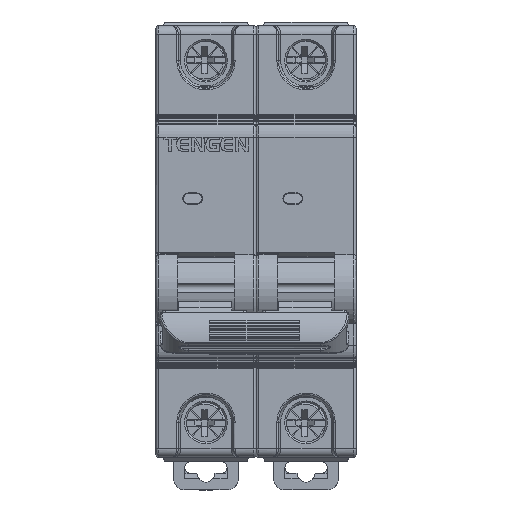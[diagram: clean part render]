
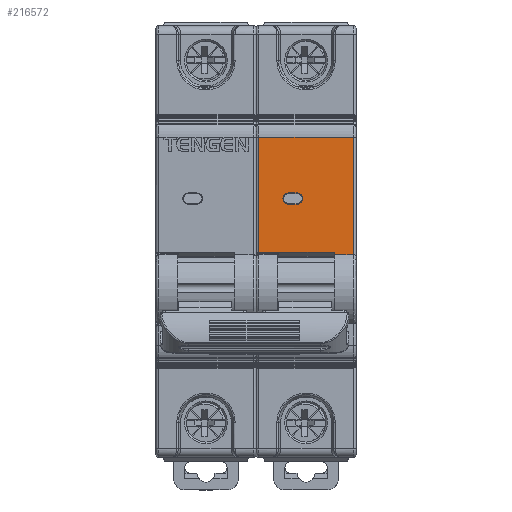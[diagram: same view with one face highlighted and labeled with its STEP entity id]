
A CAD part, top view. The second image highlights one B-rep face of the part: STEP entity #216572.
In plain terms, the highlighted planar face has unit normal (0, 0, 1) as drawn and (0, 1, 0) by its records, which use the part's own axes.
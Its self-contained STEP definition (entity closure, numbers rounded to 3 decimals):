
#2109 = CARTESIAN_POINT ( 'NONE',  ( 7.6, 14., 25.1 ) ) ;
#3216 = ORIENTED_EDGE ( 'NONE', *, *, #134150, .T. ) ;
#5697 = CIRCLE ( 'NONE', #201535, 1. ) ;
#5998 = DIRECTION ( 'NONE',  ( 0., 0., -1. ) ) ;
#6325 = CARTESIAN_POINT ( 'NONE',  ( -2.393, 14., 31.75 ) ) ;
#7253 = ORIENTED_EDGE ( 'NONE', *, *, #91258, .F. ) ;
#9603 = DIRECTION ( 'NONE',  ( 0., -1., 0. ) ) ;
#9660 = CARTESIAN_POINT ( 'NONE',  ( -1.974, 14., 21.8 ) ) ;
#11292 = VECTOR ( 'NONE', #16499, 1000. ) ;
#11916 = EDGE_LOOP ( 'NONE', ( #151654, #179648, #40804, #201691, #125794, #7253, #111905 ) ) ;
#11970 = DIRECTION ( 'NONE',  ( 0., 0., 1. ) ) ;
#13400 = VERTEX_POINT ( 'NONE', #9660 ) ;
#14199 = VERTEX_POINT ( 'NONE', #156348 ) ;
#15335 = VERTEX_POINT ( 'NONE', #36490 ) ;
#15580 = VERTEX_POINT ( 'NONE', #131794 ) ;
#16499 = DIRECTION ( 'NONE',  ( 1., 0., 0. ) ) ;
#17523 = DIRECTION ( 'NONE',  ( 0., 1., 0. ) ) ;
#18248 = ORIENTED_EDGE ( 'NONE', *, *, #180495, .T. ) ;
#20565 = EDGE_CURVE ( 'NONE', #22291, #15335, #173309, .T. ) ;
#21064 = CARTESIAN_POINT ( 'NONE',  ( 8.6, 14., 25.1 ) ) ;
#21195 = VERTEX_POINT ( 'NONE', #190199 ) ;
#21294 = DIRECTION ( 'NONE',  ( 0., 0., -1. ) ) ;
#22151 = EDGE_CURVE ( 'NONE', #217487, #48696, #125296, .T. ) ;
#22291 = VERTEX_POINT ( 'NONE', #37809 ) ;
#22553 = DIRECTION ( 'NONE',  ( 1., 0., 0. ) ) ;
#23543 = DIRECTION ( 'NONE',  ( 0., 0., 1. ) ) ;
#25448 = LINE ( 'NONE', #129979, #159810 ) ;
#35970 = AXIS2_PLACEMENT_3D ( 'NONE', #2109, #74801, #22553 ) ;
#36490 = CARTESIAN_POINT ( 'NONE',  ( 18.5, 14., 35.1 ) ) ;
#37287 = EDGE_CURVE ( 'NONE', #206288, #217487, #55682, .T. ) ;
#37809 = CARTESIAN_POINT ( 'NONE',  ( 18.5, 14., 18.3 ) ) ;
#40804 = ORIENTED_EDGE ( 'NONE', *, *, #100485, .T. ) ;
#42572 = DIRECTION ( 'NONE',  ( -1., 0., 0. ) ) ;
#45894 = CARTESIAN_POINT ( 'NONE',  ( 7.6, 14., 23.6 ) ) ;
#46351 = DIRECTION ( 'NONE',  ( 1., 0., 0. ) ) ;
#48696 = VERTEX_POINT ( 'NONE', #176336 ) ;
#55682 = CIRCLE ( 'NONE', #88305, 1. ) ;
#58732 = CARTESIAN_POINT ( 'NONE',  ( -1.974, 14., 21.8 ) ) ;
#61755 = DIRECTION ( 'NONE',  ( -1., 0., 0. ) ) ;
#66408 = FACE_OUTER_BOUND ( 'NONE', #11916, .T. ) ;
#68279 = EDGE_CURVE ( 'NONE', #14199, #22291, #153940, .T. ) ;
#68907 = CARTESIAN_POINT ( 'NONE',  ( 7.6, 14., 25.1 ) ) ;
#74801 = DIRECTION ( 'NONE',  ( 0., -1., 0. ) ) ;
#77693 = LINE ( 'NONE', #146955, #79660 ) ;
#79660 = VECTOR ( 'NONE', #93645, 1000. ) ;
#80303 = EDGE_CURVE ( 'NONE', #13400, #14199, #92820, .T. ) ;
#87727 = EDGE_CURVE ( 'NONE', #208140, #21195, #98613, .T. ) ;
#88305 = AXIS2_PLACEMENT_3D ( 'NONE', #68907, #138189, #101832 ) ;
#91258 = EDGE_CURVE ( 'NONE', #15335, #191327, #25448, .T. ) ;
#92535 = ORIENTED_EDGE ( 'NONE', *, *, #37287, .T. ) ;
#92820 = LINE ( 'NONE', #58732, #183107 ) ;
#93645 = DIRECTION ( 'NONE',  ( 0., 0., -1. ) ) ;
#97486 = CARTESIAN_POINT ( 'NONE',  ( -2.393, 14., 31.75 ) ) ;
#98613 = LINE ( 'NONE', #97486, #126113 ) ;
#98814 = CARTESIAN_POINT ( 'NONE',  ( -2.393, 14., 35.1 ) ) ;
#100485 = EDGE_CURVE ( 'NONE', #13400, #21195, #201661, .T. ) ;
#101832 = DIRECTION ( 'NONE',  ( 1., 0., 0. ) ) ;
#103848 = PLANE ( 'NONE',  #144122 ) ;
#104472 = VECTOR ( 'NONE', #5998, 1000. ) ;
#109015 = EDGE_CURVE ( 'NONE', #191327, #208140, #77693, .T. ) ;
#109358 = CARTESIAN_POINT ( 'NONE',  ( 6.6, 14., 25.1 ) ) ;
#111905 = ORIENTED_EDGE ( 'NONE', *, *, #20565, .F. ) ;
#120220 = ORIENTED_EDGE ( 'NONE', *, *, #128322, .T. ) ;
#121103 = CARTESIAN_POINT ( 'NONE',  ( 18.5, 14., 18.3 ) ) ;
#125296 = LINE ( 'NONE', #109358, #104472 ) ;
#125794 = ORIENTED_EDGE ( 'NONE', *, *, #109015, .F. ) ;
#126113 = VECTOR ( 'NONE', #46351, 1000. ) ;
#128322 = EDGE_CURVE ( 'NONE', #145854, #206288, #162925, .T. ) ;
#129979 = CARTESIAN_POINT ( 'NONE',  ( 18.5, 14., 35.1 ) ) ;
#131520 = DIRECTION ( 'NONE',  ( 0., 0., -1. ) ) ;
#131794 = CARTESIAN_POINT ( 'NONE',  ( 8.6, 14., 23.6 ) ) ;
#134150 = EDGE_CURVE ( 'NONE', #15580, #145854, #164332, .T. ) ;
#138189 = DIRECTION ( 'NONE',  ( 0., -1., 0. ) ) ;
#144122 = AXIS2_PLACEMENT_3D ( 'NONE', #173107, #17523, #131520 ) ;
#145854 = VERTEX_POINT ( 'NONE', #21064 ) ;
#146955 = CARTESIAN_POINT ( 'NONE',  ( -2.393, 14., 35.1 ) ) ;
#151654 = ORIENTED_EDGE ( 'NONE', *, *, #68279, .F. ) ;
#152256 = ORIENTED_EDGE ( 'NONE', *, *, #22151, .T. ) ;
#153940 = LINE ( 'NONE', #172093, #11292 ) ;
#156348 = CARTESIAN_POINT ( 'NONE',  ( -1.974, 14., 18.3 ) ) ;
#159665 = DIRECTION ( 'NONE',  ( 0., 0., 1. ) ) ;
#159810 = VECTOR ( 'NONE', #61755, 1000. ) ;
#162925 = CIRCLE ( 'NONE', #35970, 1. ) ;
#164332 = LINE ( 'NONE', #179150, #189293 ) ;
#167540 = CARTESIAN_POINT ( 'NONE',  ( -1.974, 14., 21.8 ) ) ;
#172093 = CARTESIAN_POINT ( 'NONE',  ( -1.974, 14., 18.3 ) ) ;
#173107 = CARTESIAN_POINT ( 'NONE',  ( -2.393, 14., 35.6 ) ) ;
#173309 = LINE ( 'NONE', #121103, #206092 ) ;
#175614 = CARTESIAN_POINT ( 'NONE',  ( 7.6, 14., 26.1 ) ) ;
#176336 = CARTESIAN_POINT ( 'NONE',  ( 6.6, 14., 23.6 ) ) ;
#179150 = CARTESIAN_POINT ( 'NONE',  ( 8.6, 14., 23.6 ) ) ;
#179648 = ORIENTED_EDGE ( 'NONE', *, *, #80303, .F. ) ;
#180495 = EDGE_CURVE ( 'NONE', #48696, #15580, #5697, .T. ) ;
#183107 = VECTOR ( 'NONE', #21294, 1000. ) ;
#186522 = VECTOR ( 'NONE', #11970, 1000. ) ;
#189293 = VECTOR ( 'NONE', #23543, 1000. ) ;
#190199 = CARTESIAN_POINT ( 'NONE',  ( -1.974, 14., 31.75 ) ) ;
#191327 = VERTEX_POINT ( 'NONE', #98814 ) ;
#196675 = EDGE_LOOP ( 'NONE', ( #3216, #120220, #92535, #152256, #18248 ) ) ;
#200786 = FACE_BOUND ( 'NONE', #196675, .T. ) ;
#201535 = AXIS2_PLACEMENT_3D ( 'NONE', #45894, #9603, #42572 ) ;
#201661 = LINE ( 'NONE', #167540, #186522 ) ;
#201691 = ORIENTED_EDGE ( 'NONE', *, *, #87727, .F. ) ;
#206092 = VECTOR ( 'NONE', #159665, 1000. ) ;
#206288 = VERTEX_POINT ( 'NONE', #175614 ) ;
#208140 = VERTEX_POINT ( 'NONE', #6325 ) ;
#216572 = ADVANCED_FACE ( 'NONE', ( #66408, #200786 ), #103848, .T. ) ;
#217487 = VERTEX_POINT ( 'NONE', #222163 ) ;
#222163 = CARTESIAN_POINT ( 'NONE',  ( 6.6, 14., 25.1 ) ) ;
